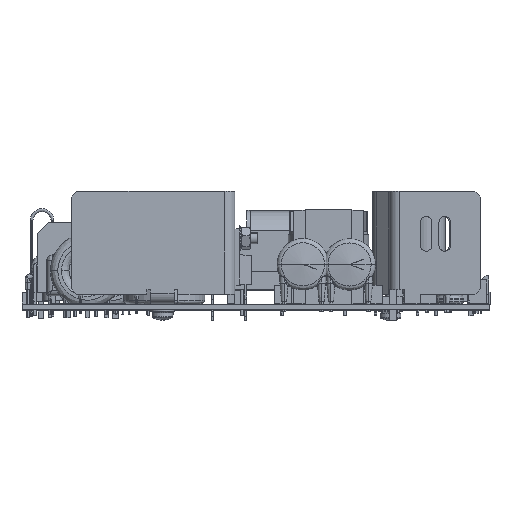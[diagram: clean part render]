
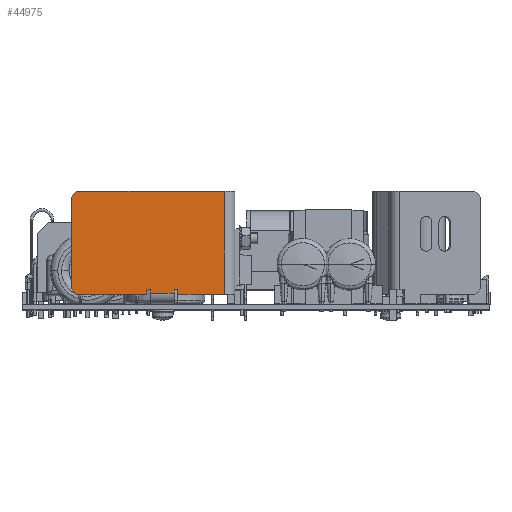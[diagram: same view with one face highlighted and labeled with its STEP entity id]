
A CAD part, top view. The second image highlights one B-rep face of the part: STEP entity #44975.
In plain terms, the highlighted planar face has unit normal (0, 0, 1) as drawn and (-1, 0, 0) by its records, which use the part's own axes.
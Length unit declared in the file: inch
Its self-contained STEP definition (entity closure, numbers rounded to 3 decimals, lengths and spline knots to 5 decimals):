
#292 = DIRECTION ( 'NONE',  ( 0., -1., 0. ) ) ;
#852 = EDGE_CURVE ( 'NONE', #109072, #27887, #110421, .T. ) ;
#1182 = DIRECTION ( 'NONE',  ( 0., 0., 1. ) ) ;
#2260 = CARTESIAN_POINT ( 'NONE',  ( 0., 0.012, -0.9 ) ) ;
#2955 = LINE ( 'NONE', #52670, #64987 ) ;
#3999 = CARTESIAN_POINT ( 'NONE',  ( 0., 0.052, -0.65 ) ) ;
#4598 = CARTESIAN_POINT ( 'NONE',  ( 0., 1.1, 0. ) ) ;
#6478 = VECTOR ( 'NONE', #106770, 39.37008 ) ;
#6578 = ORIENTED_EDGE ( 'NONE', *, *, #94090, .F. ) ;
#7158 = CARTESIAN_POINT ( 'NONE',  ( 0., 0.052, -0.61 ) ) ;
#7662 = CARTESIAN_POINT ( 'NONE',  ( 0., 0.012, 0. ) ) ;
#7666 = LINE ( 'NONE', #43952, #60104 ) ;
#9168 = ORIENTED_EDGE ( 'NONE', *, *, #14833, .F. ) ;
#9182 = PLANE ( 'NONE',  #21697 ) ;
#9802 = VERTEX_POINT ( 'NONE', #7158 ) ;
#10156 = EDGE_CURVE ( 'NONE', #16759, #48900, #95877, .T. ) ;
#11160 = ORIENTED_EDGE ( 'NONE', *, *, #10156, .T. ) ;
#11553 = EDGE_CURVE ( 'NONE', #66613, #47837, #37231, .T. ) ;
#13788 = CARTESIAN_POINT ( 'NONE',  ( 0., 0.06, -1.75 ) ) ;
#14528 = EDGE_CURVE ( 'NONE', #47837, #97702, #52531, .T. ) ;
#14833 = EDGE_CURVE ( 'NONE', #63308, #102848, #2955, .T. ) ;
#15180 = ORIENTED_EDGE ( 'NONE', *, *, #89398, .T. ) ;
#16246 = EDGE_CURVE ( 'NONE', #51240, #103964, #84457, .T. ) ;
#16759 = VERTEX_POINT ( 'NONE', #2260 ) ;
#17387 = ORIENTED_EDGE ( 'NONE', *, *, #105580, .F. ) ;
#17445 = LINE ( 'NONE', #36845, #80714 ) ;
#17915 = VECTOR ( 'NONE', #67594, 39.37008 ) ;
#18759 = CARTESIAN_POINT ( 'NONE',  ( 0., 0., -0.112 ) ) ;
#19169 = DIRECTION ( 'NONE',  ( 0., 1., 0. ) ) ;
#20460 = ORIENTED_EDGE ( 'NONE', *, *, #76965, .T. ) ;
#21048 = LINE ( 'NONE', #51891, #107077 ) ;
#21697 = AXIS2_PLACEMENT_3D ( 'NONE', #69832, #34769, #1182 ) ;
#22235 = CARTESIAN_POINT ( 'NONE',  ( 0., 0.012, -0.65 ) ) ;
#22713 = ORIENTED_EDGE ( 'NONE', *, *, #14528, .T. ) ;
#24085 = LINE ( 'NONE', #103901, #53754 ) ;
#26707 = CARTESIAN_POINT ( 'NONE',  ( 0., 1.04, -1.75 ) ) ;
#27887 = VERTEX_POINT ( 'NONE', #43303 ) ;
#28791 = FACE_OUTER_BOUND ( 'NONE', #91356, .T. ) ;
#29882 = CARTESIAN_POINT ( 'NONE',  ( 0., 0.052, -0.61 ) ) ;
#30052 = LINE ( 'NONE', #29882, #83897 ) ;
#30894 = CARTESIAN_POINT ( 'NONE',  ( 0., 0.052, -0.94 ) ) ;
#32440 = ORIENTED_EDGE ( 'NONE', *, *, #109163, .F. ) ;
#33505 = VECTOR ( 'NONE', #108990, 39.37008 ) ;
#34769 = DIRECTION ( 'NONE',  ( -1., 0., 0. ) ) ;
#36333 = ORIENTED_EDGE ( 'NONE', *, *, #46707, .F. ) ;
#36845 = CARTESIAN_POINT ( 'NONE',  ( 0., 0.052, -0.9 ) ) ;
#37231 = LINE ( 'NONE', #4598, #64321 ) ;
#37424 = ORIENTED_EDGE ( 'NONE', *, *, #62001, .T. ) ;
#39121 = ORIENTED_EDGE ( 'NONE', *, *, #11553, .T. ) ;
#42621 = CARTESIAN_POINT ( 'NONE',  ( 0., 0.052, -0.65 ) ) ;
#43213 = DIRECTION ( 'NONE',  ( 0., 0., -1. ) ) ;
#43303 = CARTESIAN_POINT ( 'NONE',  ( 0., 0., -1.69 ) ) ;
#43952 = CARTESIAN_POINT ( 'NONE',  ( 0., 0.052, -0.94 ) ) ;
#44975 = ADVANCED_FACE ( 'NONE', ( #28791 ), #9182, .T. ) ;
#46707 = EDGE_CURVE ( 'NONE', #9802, #54878, #101656, .T. ) ;
#47837 = VERTEX_POINT ( 'NONE', #101673 ) ;
#48102 = CARTESIAN_POINT ( 'NONE',  ( 0., 1.1, -0.112 ) ) ;
#48270 = LINE ( 'NONE', #100324, #33505 ) ;
#48900 = VERTEX_POINT ( 'NONE', #22235 ) ;
#51240 = VERTEX_POINT ( 'NONE', #64616 ) ;
#51243 = DIRECTION ( 'NONE',  ( 0., 0., -1. ) ) ;
#51891 = CARTESIAN_POINT ( 'NONE',  ( 0., 1.1, -1.75 ) ) ;
#52448 = DIRECTION ( 'NONE',  ( 0., 1., 0. ) ) ;
#52531 = LINE ( 'NONE', #69830, #103608 ) ;
#52670 = CARTESIAN_POINT ( 'NONE',  ( 0., 0., -0.94 ) ) ;
#53290 = CARTESIAN_POINT ( 'NONE',  ( 0., 0., 0. ) ) ;
#53467 = CARTESIAN_POINT ( 'NONE',  ( 0., 0.052, -0.9 ) ) ;
#53754 = VECTOR ( 'NONE', #52448, 39.37008 ) ;
#54707 = ORIENTED_EDGE ( 'NONE', *, *, #16246, .T. ) ;
#54878 = VERTEX_POINT ( 'NONE', #3999 ) ;
#55844 = DIRECTION ( 'NONE',  ( 0., 1., 0. ) ) ;
#60104 = VECTOR ( 'NONE', #43213, 39.37008 ) ;
#62001 = EDGE_CURVE ( 'NONE', #27887, #102848, #48270, .T. ) ;
#63308 = VERTEX_POINT ( 'NONE', #30894 ) ;
#63583 = ORIENTED_EDGE ( 'NONE', *, *, #852, .T. ) ;
#64321 = VECTOR ( 'NONE', #109131, 39.37008 ) ;
#64616 = CARTESIAN_POINT ( 'NONE',  ( 0., 0., -0.61 ) ) ;
#64987 = VECTOR ( 'NONE', #102977, 39.37008 ) ;
#66613 = VERTEX_POINT ( 'NONE', #48102 ) ;
#66913 = DIRECTION ( 'NONE',  ( 0., -0.707, 0.707 ) ) ;
#67594 = DIRECTION ( 'NONE',  ( 0., 0., 1. ) ) ;
#69830 = CARTESIAN_POINT ( 'NONE',  ( 0., 1.1, -1.69 ) ) ;
#69832 = CARTESIAN_POINT ( 'NONE',  ( 0., 1.1, 0. ) ) ;
#69930 = DIRECTION ( 'NONE',  ( 0., 0., 1. ) ) ;
#70989 = CARTESIAN_POINT ( 'NONE',  ( 0., 0., -0.94 ) ) ;
#71514 = VECTOR ( 'NONE', #66913, 39.37008 ) ;
#72165 = VERTEX_POINT ( 'NONE', #53467 ) ;
#72435 = VECTOR ( 'NONE', #69930, 39.37008 ) ;
#76965 = EDGE_CURVE ( 'NONE', #103964, #66613, #24085, .T. ) ;
#78433 = DIRECTION ( 'NONE',  ( 0., -0.707, -0.707 ) ) ;
#80714 = VECTOR ( 'NONE', #19169, 39.37008 ) ;
#83010 = ORIENTED_EDGE ( 'NONE', *, *, #83673, .F. ) ;
#83673 = EDGE_CURVE ( 'NONE', #54878, #48900, #84586, .T. ) ;
#83897 = VECTOR ( 'NONE', #55844, 39.37008 ) ;
#84457 = LINE ( 'NONE', #53290, #72435 ) ;
#84586 = LINE ( 'NONE', #107150, #6478 ) ;
#89398 = EDGE_CURVE ( 'NONE', #97702, #109072, #21048, .T. ) ;
#91356 = EDGE_LOOP ( 'NONE', ( #39121, #22713, #15180, #63583, #37424, #9168, #32440, #6578, #11160, #83010, #36333, #17387, #54707, #20460 ) ) ;
#94090 = EDGE_CURVE ( 'NONE', #16759, #72165, #17445, .T. ) ;
#95877 = LINE ( 'NONE', #7662, #17915 ) ;
#97702 = VERTEX_POINT ( 'NONE', #26707 ) ;
#100324 = CARTESIAN_POINT ( 'NONE',  ( 0., 0., 0. ) ) ;
#101656 = LINE ( 'NONE', #42621, #107069 ) ;
#101673 = CARTESIAN_POINT ( 'NONE',  ( 0., 1.1, -1.69 ) ) ;
#102848 = VERTEX_POINT ( 'NONE', #70989 ) ;
#102977 = DIRECTION ( 'NONE',  ( 0., -1., 0. ) ) ;
#103608 = VECTOR ( 'NONE', #78433, 39.37008 ) ;
#103901 = CARTESIAN_POINT ( 'NONE',  ( 0., 1.1, -0.112 ) ) ;
#103964 = VERTEX_POINT ( 'NONE', #18759 ) ;
#105580 = EDGE_CURVE ( 'NONE', #51240, #9802, #30052, .T. ) ;
#106770 = DIRECTION ( 'NONE',  ( 0., -1., 0. ) ) ;
#107069 = VECTOR ( 'NONE', #51243, 39.37008 ) ;
#107077 = VECTOR ( 'NONE', #292, 39.37008 ) ;
#107150 = CARTESIAN_POINT ( 'NONE',  ( 0., 0.012, -0.65 ) ) ;
#108990 = DIRECTION ( 'NONE',  ( 0., 0., 1. ) ) ;
#109072 = VERTEX_POINT ( 'NONE', #111572 ) ;
#109131 = DIRECTION ( 'NONE',  ( 0., 0., -1. ) ) ;
#109163 = EDGE_CURVE ( 'NONE', #72165, #63308, #7666, .T. ) ;
#110421 = LINE ( 'NONE', #13788, #71514 ) ;
#111572 = CARTESIAN_POINT ( 'NONE',  ( 0., 0.06, -1.75 ) ) ;
